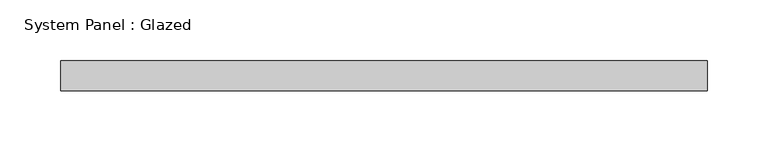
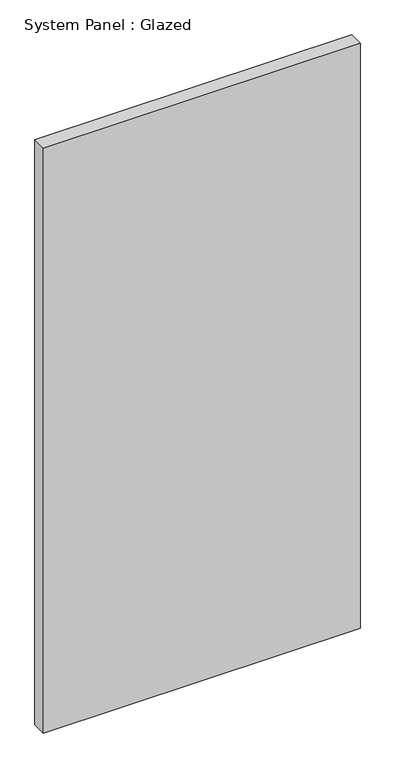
"""IFC4 building model written with IfcOpenShell, lengths in millimetres: plate geometry, System Panel : Glazed."""

from ifc_helpers import new_model, si_unit, origin, origin_with_axes, place, context, project, spatial, polyline, outline, extrude, source, transform, mapped, element, save


def system_panel_glazed_de956dc5(model_context):
    return source(origin(), model_context, "Body", "SweptSolid", [
        extrude(outline(polyline([(266.7200031, -12.5), (-266.7200031, -12.5), (-266.7200031, 12.5), (266.7200031, 12.5), (266.7200031, -12.5)])), origin_with_axes(), (0.0, 0.0, 1.0), 1041.7444455),
    ])


if __name__ == "__main__":
    model = new_model("IFC4")
    model_context = context("Model", 3, world=origin())
    ifc_project = project(units=[si_unit("LENGTHUNIT", "METRE", prefix="MILLI")], contexts=[model_context])
    site = spatial("IfcSite", under=ifc_project)
    building = spatial("IfcBuilding", under=site)
    placement = place(None, origin())
    system_panel_glazed_shape = system_panel_glazed_de956dc5(model_context)
    element("IfcPlate", 1, ObjectType="System Panel : Glazed", at=placement, inside=building, context=model_context, shape_type="MappedRepresentation", body=[
        mapped(system_panel_glazed_shape, transform((0.0, 0.0, 0.0), x_axis=(1.0, 0.0, 0.0), y_axis=(0.0, 1.0, 0.0), z_axis=(0.0, 0.0, 1.0))),
    ])
    save(model, "model.ifc")
